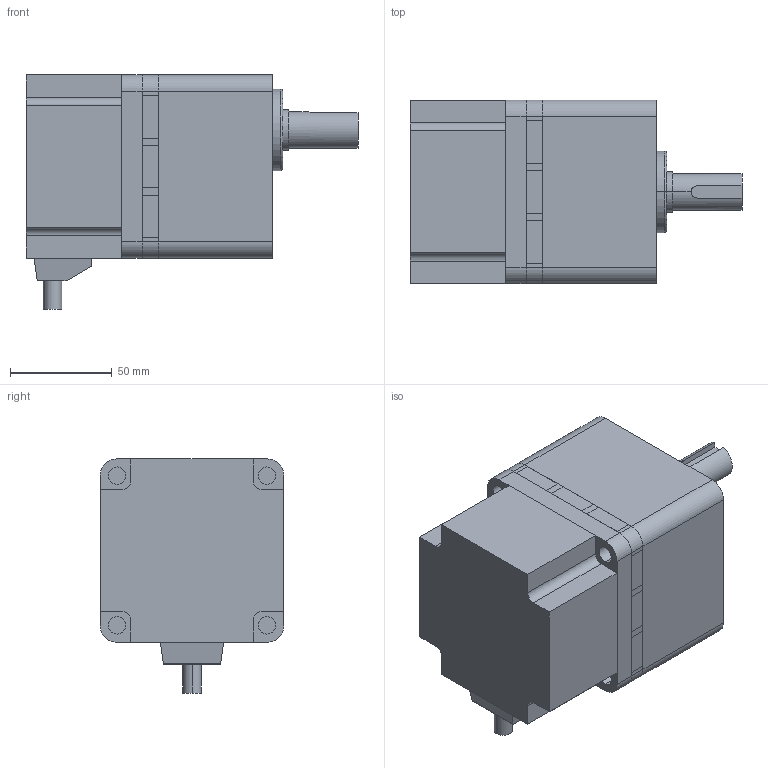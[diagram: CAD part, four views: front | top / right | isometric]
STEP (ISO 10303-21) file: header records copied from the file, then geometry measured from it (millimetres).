
FILE_DESCRIPTION(('starvars output'),'2;1');
FILE_NAME('BLH5100KC-200.stp','15:07:32 2015/05/11',( 'Thomas Industrial Network Germany GmbH'),( 'Thomas Industrial Network Germany GmbH'),'unknown preprocess','ACIS' ,'unknown authorization');
FILE_SCHEMA(('AUTOMOTIVE_DESIGN_CC2 {UNKNOWN IMPLEMENTATION LEVEL}'));
Length unit declared in the file: millimetre
Products named in the file (1): PRODUCT_ID_427
Bounding box: 163 x 90 x 115 mm (x, y, z)
Volume: 932704.9 mm3; surface area: 73086.9 mm2
Topology: 2 solids, 2 shells, 163 faces, 414 edges, 272 vertices
Faces by surface type: plane 102, cylinder 53, cone 6, torus 2
Entity records: 5898 total; most frequent: ORIENTED_EDGE 824, CARTESIAN_POINT 798, DIRECTION 694, EDGE_CURVE 412, VECTOR 286, LINE 286, VERTEX_POINT 272, AXIS2_PLACEMENT_3D 204
